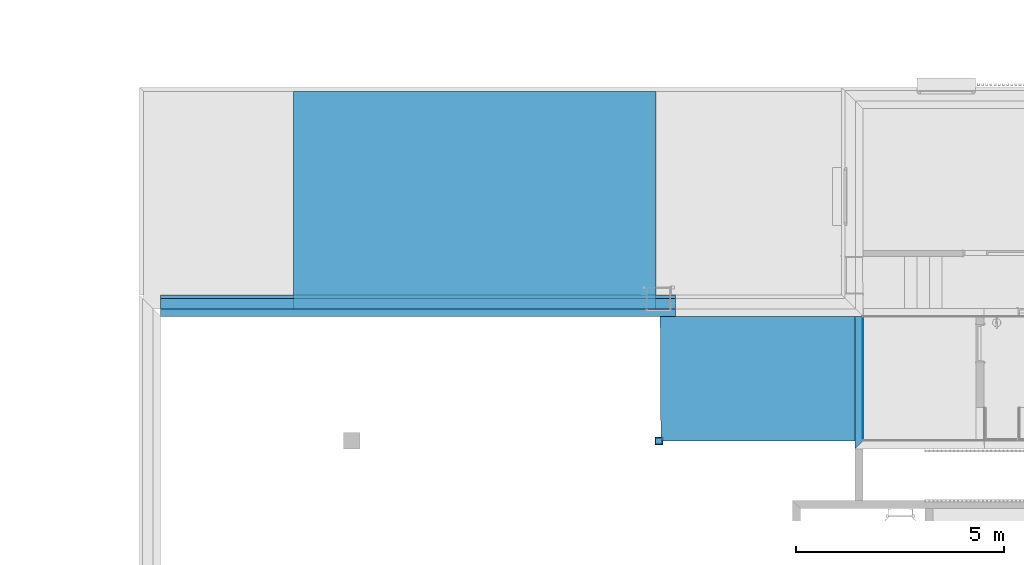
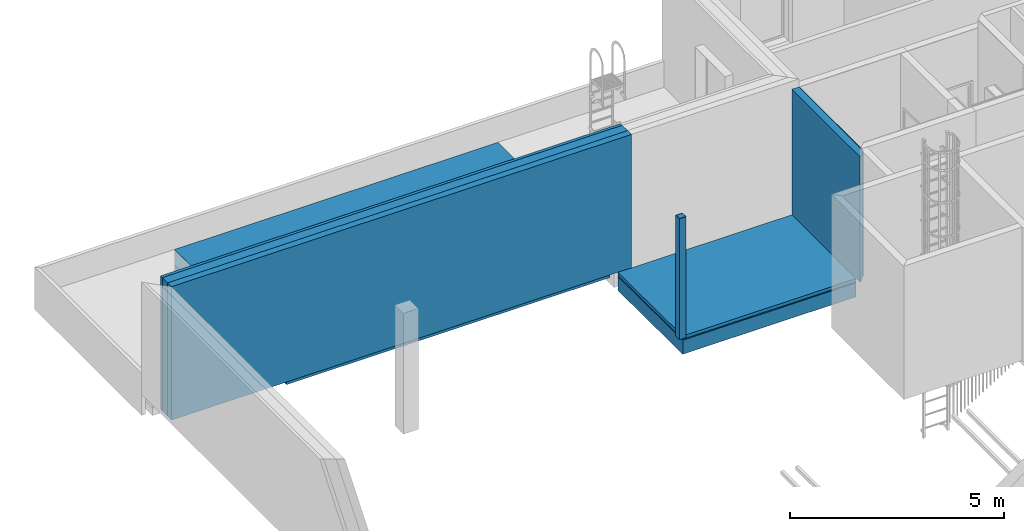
# One storey, part 15 of 100: 13 building element parts, 5 elements without a shape of their own.
"""IFC2X3 building model written with IfcOpenShell, lengths in millimetres."""

from ifc_helpers import new_model, entity, si_unit, converted_unit, derived_unit, money_unit, direction, frame, origin_with_axes, origin_2d_with_axis, place, context, subcontext, project, spatial, polyline, rectangle, hollow_rectangle, outline, extrude, material, type_object, element, aggregate, save


model = new_model("IFC2X3")

# Units and contexts
model_context = context("Model", 3, precision=0.01, world=origin_with_axes(), true_north=direction((0.0, 1.0)))
body_context = subcontext(model_context, "Body", "Model", "MODEL_VIEW")
ifc_project = project(units=[si_unit("LENGTHUNIT", "METRE", prefix="MILLI"), si_unit("AREAUNIT", "SQUARE_METRE"), si_unit("VOLUMEUNIT", "CUBIC_METRE"), converted_unit("PLANEANGLEUNIT", "DEGREE", entity("IfcPlaneAngleMeasure", 0.0174532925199), si_unit("PLANEANGLEUNIT", "RADIAN"), dimensions=[0, 0, 0, 0, 0, 0, 0]), si_unit("SOLIDANGLEUNIT", "STERADIAN"), money_unit("EUR"), converted_unit("TIMEUNIT", "Year", entity("IfcTimeMeasure", 31556926.0), si_unit("TIMEUNIT", "SECOND"), dimensions=[0, 0, 1, 0, 0, 0, 0]), si_unit("MASSUNIT", "GRAM", prefix="KILO"), si_unit("THERMODYNAMICTEMPERATUREUNIT", "DEGREE_CELSIUS"), si_unit("LUMINOUSINTENSITYUNIT", "LUMEN"), si_unit("ENERGYUNIT", "JOULE", prefix="MEGA"), derived_unit("THERMALCONDUCTANCEUNIT", [(si_unit("POWERUNIT", "WATT"), 1), (si_unit("LENGTHUNIT", "METRE"), -1), (si_unit("THERMODYNAMICTEMPERATUREUNIT", "KELVIN"), -1)]), derived_unit("SPECIFICHEATCAPACITYUNIT", [(si_unit("ENERGYUNIT", "JOULE"), 1), (si_unit("MASSUNIT", "GRAM", prefix="KILO"), -1), (si_unit("THERMODYNAMICTEMPERATUREUNIT", "KELVIN"), -1)]), derived_unit("MASSDENSITYUNIT", [(si_unit("MASSUNIT", "GRAM", prefix="KILO"), 1), (si_unit("VOLUMEUNIT", "CUBIC_METRE"), -1)])], contexts=[model_context])

# Site, building, storey
site_placement = place(None, origin_with_axes())
site = spatial("IfcSite", under=ifc_project, at=site_placement, Name="Politse- ja Piirivalveameti ning Päästeameti ühishoone", CompositionType="ELEMENT")
building_placement = place(site_placement, origin_with_axes())
building = spatial("IfcBuilding", under=site, at=building_placement, Name="Politse- ja Piirivalveameti ning Päästeameti ühishoone", CompositionType="ELEMENT")
storey_placement = place(building_placement, frame((0.0, 0.0, 3800.0), z_axis=(0.0, 0.0, 1.0), x_axis=(1.0, 0.0, 0.0)))
storey = spatial("IfcBuildingStorey", under=building, at=storey_placement, Name="Teine korrus", CompositionType="ELEMENT", Elevation=3800.0)

# Wall, building element parts
wall_type_1 = type_object("IfcWallType", Name="SS-05_Sisesein - relvaruum 205", PredefinedType="NOTDEFINED")
wall_1_placement = place(storey_placement, frame((16915.2858198, 13015.0198611, 0.0), z_axis=(0.0, 0.0, 1.0), x_axis=(0.0, 1.0, 0.0)))
wall_1 = element("IfcWall", 1, at=wall_1_placement, inside=storey, type_object=wall_type_1, Name="SS-05")
ifc_material_1 = material(Name="ET-05_Teras")
building_element_part_1_placement = place(wall_1_placement, origin_with_axes())
building_element_part_1 = element("IfcBuildingElementPart", 2, at=building_element_part_1_placement, material=ifc_material_1, Name="ET-05_Teras", context=body_context, shape_type="SweptSolid", body=[
    extrude(outline(polyline([(0.0, 0.0), (2985.00458333, 0.0), (2985.00458333, 15.0), (-15.0, 15.0), (0.0, 0.0)])), origin_with_axes(), (0.0, 0.0, 1.0), 3575.0),
])
ifc_material_2 = material(Name="KON-05_Betoon Plokk - Konstuktsioon")
building_element_part_2_placement = place(wall_1_placement, origin_with_axes())
building_element_part_2 = element("IfcBuildingElementPart", 3, at=building_element_part_2_placement, material=ifc_material_2, Name="KON-05_Betoon Plokk - Konstuktsioon", context=body_context, shape_type="SweptSolid", body=[
    extrude(outline(polyline([(-15.0, 15.0), (2985.00458333, 15.0), (2985.00458333, 205.0), (-205.0, 205.0), (-15.0, 15.0)])), origin_with_axes(), (0.0, 0.0, 1.0), 3575.0),
])
aggregate(wall_1, [building_element_part_1, building_element_part_2])

wall_type_2 = type_object("IfcWallType", Name="VS-01_välissein 510", PredefinedType="NOTDEFINED")
wall_2_placement = place(storey_placement, frame((0.0, 16000.0244444, 0.0), z_axis=(0.0, 0.0, 1.0), x_axis=(1.0, 0.0, 0.0)))
wall_2 = element("IfcWall", 4, at=wall_2_placement, inside=storey, type_object=wall_type_2, Name="VS-01")
ifc_material_3 = material(Name="KON-04_Betoon - Konstuktsioon")
building_element_part_3_placement = place(wall_2_placement, origin_with_axes())
building_element_part_3 = element("IfcBuildingElementPart", 5, at=building_element_part_3_placement, material=ifc_material_3, Name="KON-04_Betoon - Konstuktsioon", context=body_context, shape_type="SweptSolid", body=[
    extrude(outline(polyline([(0.0, 0.0), (12390.2410067, 0.0), (12390.2410067, 180.0), (0.0, 180.0), (0.0, 0.0)])), origin_with_axes(), (0.0, 0.0, 1.0), 3800.0),
])
ifc_material_4 = material(Name="SOJ-06_Soojustus - Plastik Kõva")
building_element_part_4_placement = place(wall_2_placement, origin_with_axes())
building_element_part_4 = element("IfcBuildingElementPart", 6, at=building_element_part_4_placement, material=ifc_material_4, Name="SOJ-06_Soojustus - Plastik Kõva", context=body_context, shape_type="SweptSolid", body=[
    extrude(outline(polyline([(0.0, 180.0), (12390.2410067, 180.0), (12390.2410067, 430.0), (0.0, 430.0), (0.0, 180.0)])), origin_with_axes(), (0.0, 0.0, 1.0), 3800.0),
])
building_element_part_5_placement = place(wall_2_placement, origin_with_axes())
building_element_part_5 = element("IfcBuildingElementPart", 7, at=building_element_part_5_placement, material=ifc_material_3, Name="KON-04_Betoon - Konstuktsioon", context=body_context, shape_type="SweptSolid", body=[
    extrude(outline(polyline([(0.0, 430.0), (12390.2410067, 430.0), (12390.2410067, 510.0), (0.0, 510.0), (0.0, 430.0)])), origin_with_axes(), (0.0, 0.0, 1.0), 3800.0),
])
aggregate(wall_2, [building_element_part_3, building_element_part_4, building_element_part_5])

# Slab, building element parts
slab_type_1 = type_object("IfcSlabType", Name="KL-01_Katuslagi paneel 220 680", PredefinedType="ROOF")
slab_1_placement = place(storey_placement, frame((3202.00534722, 21409.9520832, 460.0), z_axis=(0.0, 0.0, 1.0), x_axis=(1.0, 0.0, 0.0)))
slab_1 = element("IfcSlab", 8, at=slab_1_placement, inside=storey, type_object=slab_type_1, Name="KL-01", PredefinedType="ROOF")
building_element_part_6_placement = place(slab_1_placement, origin_with_axes())
building_element_part_6 = element("IfcBuildingElementPart", 9, at=building_element_part_6_placement, material=ifc_material_3, Name="KON-04_Betoon - Konstuktsioon", context=body_context, shape_type="SweptSolid", body=[
    extrude(outline(polyline([(0.0, 0.0), (0.0, -5229.92763877), (8717.68471315, -5229.92763877), (8717.68471315, 0.0), (0.0, 0.0)])), frame((0.0, 0.0, -680.0), z_axis=(0.0, 0.0, 1.0), x_axis=(1.0, 0.0, 0.0)), (0.0, 0.0, 1.0), 220.0),
])
ifc_material_5 = material(Name="Betoon")
building_element_part_7_placement = place(slab_1_placement, origin_with_axes())
building_element_part_7 = element("IfcBuildingElementPart", 10, at=building_element_part_7_placement, material=ifc_material_5, Name="Betoon", context=body_context, shape_type="SweptSolid", body=[
    extrude(outline(polyline([(0.0, 0.0), (0.0, -5229.92763877), (8717.68471315, -5229.92763877), (8717.68471315, 0.0), (0.0, 0.0)])), frame((0.0, 0.0, -460.0), z_axis=(0.0, 0.0, 1.0), x_axis=(1.0, 0.0, 0.0)), (0.0, 0.0, 1.0), 30.0),
])
ifc_material_6 = material(Name="SOJ-02_Soojustus - Fiiber Kõva")
building_element_part_8_placement = place(slab_1_placement, origin_with_axes())
building_element_part_8 = element("IfcBuildingElementPart", 11, at=building_element_part_8_placement, material=ifc_material_6, Name="SOJ-02_Soojustus - Fiiber Kõva", context=body_context, shape_type="SweptSolid", body=[
    extrude(outline(polyline([(0.0, 0.0), (0.0, -5229.92763877), (8717.68471315, -5229.92763877), (8717.68471315, 0.0), (0.0, 0.0)])), frame((0.0, 0.0, -430.0), z_axis=(0.0, 0.0, 1.0), x_axis=(1.0, 0.0, 0.0)), (0.0, 0.0, 1.0), 430.0),
])
aggregate(slab_1, [building_element_part_6, building_element_part_7, building_element_part_8])

# Column, building element parts
column_type = type_object("IfcColumnType", Name="ET-05_Teras 180 x 180", PredefinedType="COLUMN")
column_placement = place(storey_placement, frame((11990.1985231, 13000.0200238, 0.0), z_axis=(0.0, 0.0, 1.0), x_axis=(1.0, 0.0, 0.0)))
column = element("IfcColumn", 12, at=column_placement, inside=storey, type_object=column_type, Name="POST", ObjectType="COLUMN")
ifc_material_7 = material(Name="VV-00_GENEERILINE - VÄLINE VOODER")
building_element_part_9_placement = place(column_placement, origin_with_axes())
building_element_part_9 = element("IfcBuildingElementPart", 13, at=building_element_part_9_placement, material=ifc_material_7, Name="VV-00_GENEERILINE - VÄLINE VOODER", context=body_context, shape_type="SweptSolid", body=[
    extrude(hollow_rectangle(XDim=180.000062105, YDim=180.000062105, WallThickness=10.0, at=origin_2d_with_axis()), origin_with_axes(), (0.0, 0.0, 1.0), 3440.0),
])
building_element_part_10_placement = place(column_placement, origin_with_axes())
building_element_part_10 = element("IfcBuildingElementPart", 14, at=building_element_part_10_placement, material=ifc_material_1, Name="ET-05_Teras", context=body_context, shape_type="SweptSolid", body=[
    extrude(rectangle(XDim=160.000062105, YDim=160.000062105, at=origin_2d_with_axis()), origin_with_axes(), (0.0, 0.0, 1.0), 3440.0),
])
aggregate(column, [building_element_part_9, building_element_part_10])

# Slab, building element parts
slab_type_2 = type_object("IfcSlabType", Name="VL-05_Vahelagi   400 paneel 520", PredefinedType="NOTDEFINED")
slab_2_placement = place(storey_placement, frame((12024.0306874, 16000.0244797, 0.0), z_axis=(0.0, 0.0, 1.0), x_axis=(1.0, 0.0, 0.0)))
slab_2 = element("IfcSlab", 15, at=slab_2_placement, inside=storey, type_object=slab_type_2, Name="VL-05", PredefinedType="NOTDEFINED")
ifc_material_8 = material(Name="KON-06_Raudbetoon - Konstruktsioon")
building_element_part_11_placement = place(slab_2_placement, origin_with_axes())
building_element_part_11 = element("IfcBuildingElementPart", 16, at=building_element_part_11_placement, material=ifc_material_8, Name="KON-06_Raudbetoon - Konstruktsioon", context=body_context, shape_type="SweptSolid", body=[
    extrude(outline(polyline([(0.0, 0.0), (16.1674934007, -3000.0046186), (4686.0542367, -3000.05359074), (4686.25513241, -3.52714515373e-05), (0.0, 0.0)])), frame((0.0, 0.0, -520.0), z_axis=(0.0, 0.0, 1.0), x_axis=(1.0, 0.0, 0.0)), (0.0, 0.0, 1.0), 400.0),
])
ifc_material_9 = material(Name="SOJ-04_Soojustus - Mineraal Kõva")
building_element_part_12_placement = place(slab_2_placement, origin_with_axes())
building_element_part_12 = element("IfcBuildingElementPart", 17, at=building_element_part_12_placement, material=ifc_material_9, Name="SOJ-04_Soojustus - Mineraal Kõva", context=body_context, shape_type="SweptSolid", body=[
    extrude(outline(polyline([(0.0, 0.0), (16.1674934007, -3000.0046186), (4686.0542367, -3000.05359074), (4686.25513241, -3.52714515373e-05), (0.0, 0.0)])), frame((0.0, 0.0, -120.0), z_axis=(0.0, 0.0, 1.0), x_axis=(1.0, 0.0, 0.0)), (0.0, 0.0, 1.0), 30.0),
])
ifc_material_10 = material(Name="VKR-01_Betoon")
building_element_part_13_placement = place(slab_2_placement, origin_with_axes())
building_element_part_13 = element("IfcBuildingElementPart", 18, at=building_element_part_13_placement, material=ifc_material_10, Name="VKR-01_Betoon", context=body_context, shape_type="SweptSolid", body=[
    extrude(outline(polyline([(0.0, 0.0), (16.1674934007, -3000.0046186), (4686.0542367, -3000.05359074), (4686.25513241, -3.52714515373e-05), (0.0, 0.0)])), frame((0.0, 0.0, -90.0), z_axis=(0.0, 0.0, 1.0), x_axis=(1.0, 0.0, 0.0)), (0.0, 0.0, 1.0), 90.0),
])
aggregate(slab_2, [building_element_part_11, building_element_part_12, building_element_part_13])

save(model, "model.ifc")
